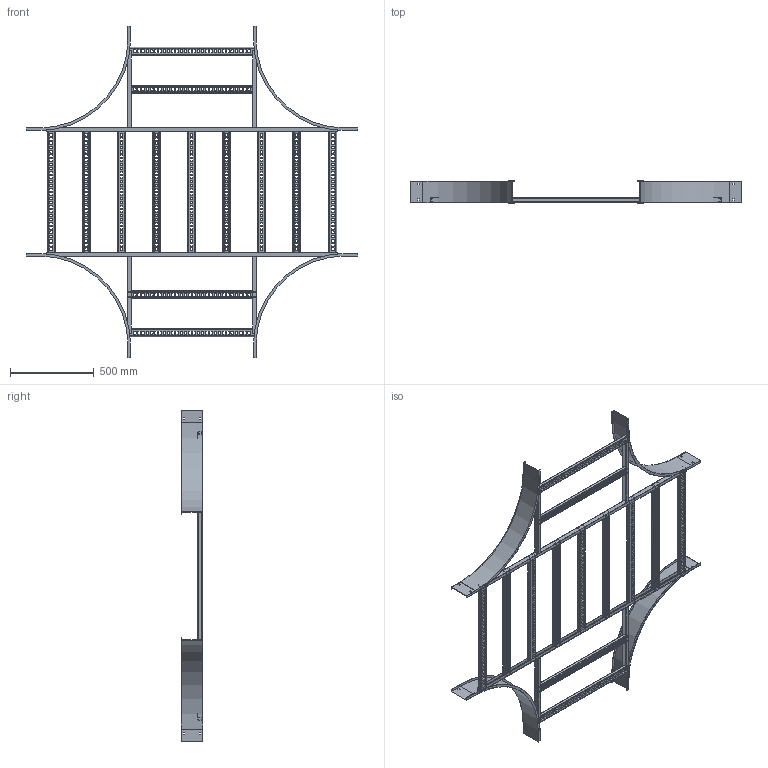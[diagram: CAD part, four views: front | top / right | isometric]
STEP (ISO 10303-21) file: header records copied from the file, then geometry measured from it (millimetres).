
FILE_DESCRIPTION((''),'2;1');
FILE_NAME('AUF530LHX24_ASM','2010-01-27T',('erouzier'),(''),'PRO/ENGINEER BY PARAMETRIC TECHNOLOGY CORPORATION, 2008510','PRO/ENGINEER BY PARAMETRIC TECHNOLOGY CORPORATION, 2008510','');
FILE_SCHEMA(('CONFIG_CONTROL_DESIGN'));
Length unit declared in the file: inch
Products named in the file (18): CDS001320-5-90-21-I; CDS002159L30-P_AF9; CDS002159L30-P_AF10; CDS002159L30-P_AF11; CDS002159L30-P_AF12; CDS002159L30-P_AF13; CDS002159L30-P_AF14; CDS002159L30-P_AF15; CDS002159L30-P_AF17; CDS002159L30-P_AF16; CDS000495_GEN_AF18; CDS000495_GEN_AF19; CDS000495_GEN_AF22; CDS000495_GEN_AF23; CDS000495_GEN_AF20; CDS000495_GEN_AF21; CDS002159L30-P; AUF530LHX24_ASM
Assembly tree (23 placements, depth 2):
  AUF530LHX24_ASM
    CDS001320-5-90-21-I  x4
    CDS002159L30-P_AF9
    CDS002159L30-P_AF10
    CDS002159L30-P_AF11
    CDS002159L30-P_AF12
    CDS002159L30-P_AF13
    CDS002159L30-P_AF14
    CDS002159L30-P_AF15
    CDS002159L30-P_AF17
    CDS002159L30-P_AF16
    CDS000495_GEN_AF18
    CDS000495_GEN_AF19
    CDS000495_GEN_AF22
    CDS000495_GEN_AF23
    CDS000495_GEN_AF20
    CDS000495_GEN_AF21
    CDS002159L30-P  x4
Bounding box: 1986.28 x 129.03 x 1986.28 mm (x, y, z)
Volume: 3604245.4 mm3; surface area: 4182668.1 mm2
Topology: 23 solids, 23 shells, 3498 faces, 10356 edges, 6904 vertices
Faces by surface type: plane 1883, cylinder 1615
Entity records: 90227 total; most frequent: CARTESIAN_POINT 15675, DIRECTION 15618, ORIENTED_EDGE 15600, EDGE_CURVE 7800, VECTOR 5332, LINE 5332, VERTEX_POINT 5200, AXIS2_PLACEMENT_3D 5143
